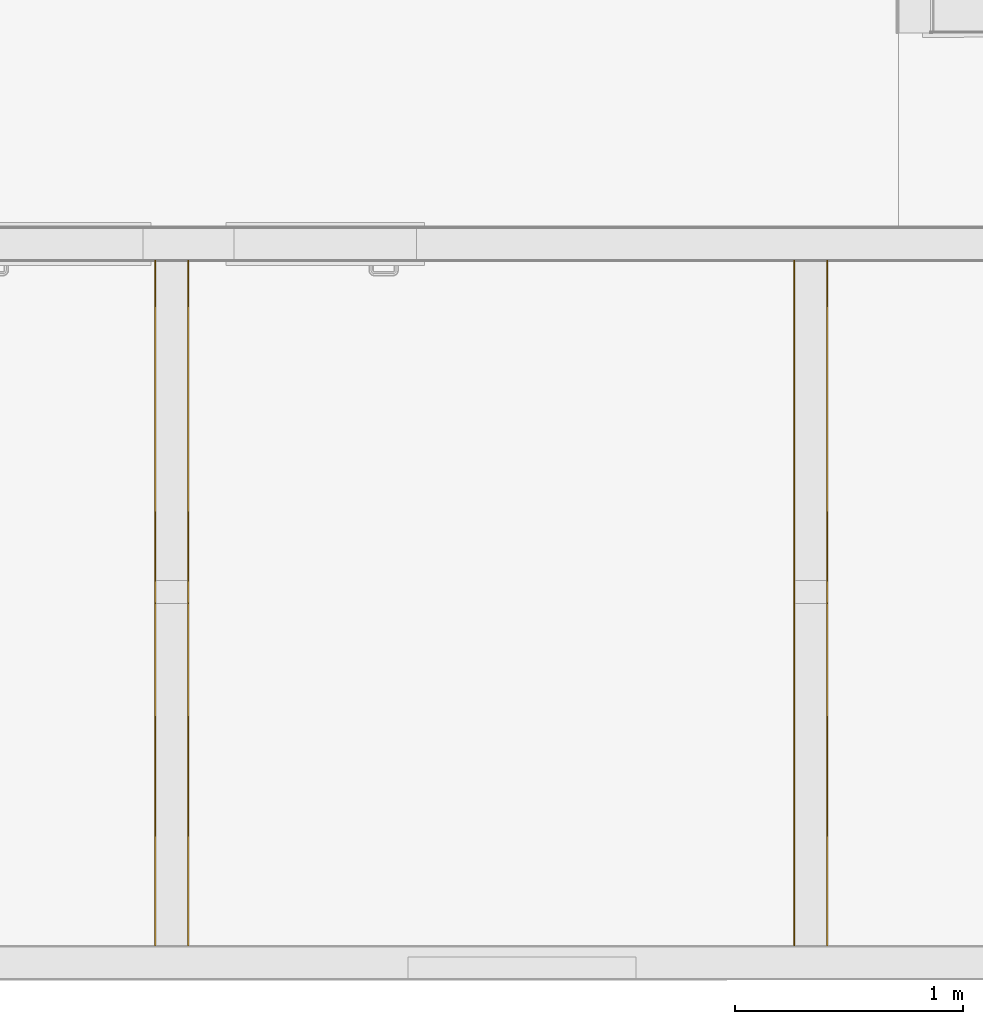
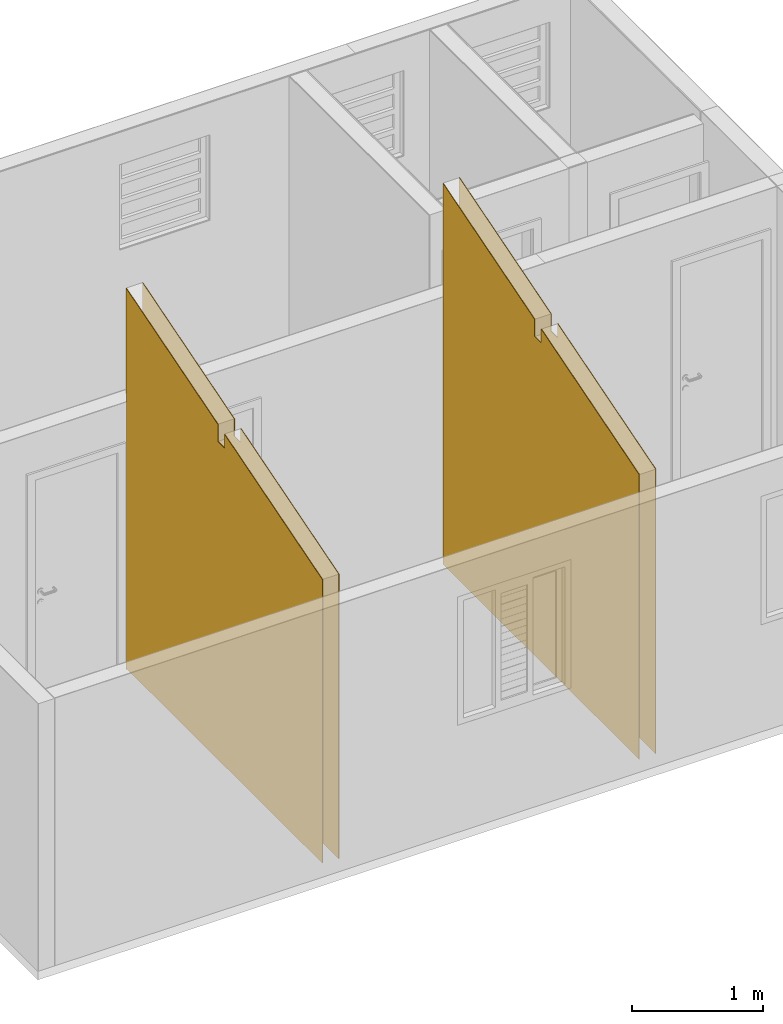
# One storey, part 11 of 11: 4 coverings, 2 elements without a shape of their own.
"""IFC2X3 building model written with IfcOpenShell, lengths in millimetres."""

import ifcopenshell
import ifcopenshell.guid

model = None  # the IFC model being written
_history = None  # IfcOwnerHistory: only IFC2X3 demands one
_inside = {}  # id of a spatial element -> (the spatial element, [elements in it])
_under = {}  # id of a project, library or spatial element -> (it, [spatial elements below it])
_declared = {}  # id of a project -> (the project, [libraries it declares])
_typed = {}  # id of a type object -> (the type object, [elements of that type])
_made_of = {}  # id of a material, layer set ... -> (it, [elements and type objects made of it])


def new_model(schema):
    """Start an empty IFC model of exactly this schema.

    Asked for "IFC4X3", IfcOpenShell would pick the latest addendum, in which some entities
    have other attributes; the version numbers below select the first issue.
    IFC2X3 requires an IfcOwnerHistory on every rooted entity: one is made here for all.
    """
    global model, _history
    if schema == "IFC4X3":
        model = ifcopenshell.file(schema_version=(4, 3, 0, 0))
    else:
        model = ifcopenshell.file(schema=schema)
    _inside.clear()
    _under.clear()
    _declared.clear()
    _typed.clear()
    _made_of.clear()
    _history = None
    if model.schema == "IFC2X3":
        org = make("IfcOrganization", Name="unknown")
        user = make(
            "IfcPersonAndOrganization",
            ThePerson=make("IfcPerson", FamilyName="unknown"),
            TheOrganization=org,
        )
        app = make(
            "IfcApplication",
            ApplicationDeveloper=org,
            Version="unknown",
            ApplicationFullName="unknown",
            ApplicationIdentifier="unknown",
        )
        _history = make(
            "IfcOwnerHistory",
            OwningUser=user,
            OwningApplication=app,
            ChangeAction="ADDED",
            CreationDate=0,
        )
    return model


def make(cls, **values):
    """One entity of the class cls with the attributes given. An attribute that is None is left unset."""
    return model.create_entity(
        cls, **{name: value for name, value in values.items() if value is not None}
    )


def entity(cls, *values):
    """Any entity or typed value of the class cls, its attributes in the order of the schema. None: left unset."""
    e = model.create_entity(cls)
    for i, value in enumerate(values):
        if value is not None:
            e[i] = value
    return e


def rooted(cls, **values):
    """An entity with a GlobalId (a new one), such as an element, a storey or a relation."""
    return make(cls, GlobalId=ifcopenshell.guid.new(), OwnerHistory=_history, **values)


def si_unit(unit_type, name, prefix=None):
    """IfcSIUnit, for example si_unit("LENGTHUNIT", "METRE", prefix="MILLI")."""
    return make("IfcSIUnit", UnitType=unit_type, Prefix=prefix, Name=name)


def converted_unit(unit_type, name, factor, base, dimensions=None, offset=None):
    """IfcConversionBasedUnit, such as the inch: factor (a typed value) times the base unit."""
    return make(
        "IfcConversionBasedUnit"
        if offset is None
        else "IfcConversionBasedUnitWithOffset",
        ConversionOffset=offset,
        Dimensions=None
        if dimensions is None
        else entity("IfcDimensionalExponents", *dimensions),
        UnitType=unit_type,
        Name=name,
        ConversionFactor=make(
            "IfcMeasureWithUnit", ValueComponent=factor, UnitComponent=base
        ),
    )


def derived_unit(unit_type, elements):
    """IfcDerivedUnit: a product of units, each with its exponent."""
    return make(
        "IfcDerivedUnit",
        Elements=[
            make("IfcDerivedUnitElement", Unit=unit, Exponent=power)
            for unit, power in elements
        ],
        UnitType=unit_type,
    )


def money_unit(currency):
    """IfcMonetaryUnit."""
    return make("IfcMonetaryUnit", Currency=currency)


def assignment(units):
    """IfcUnitAssignment: the units of a project."""
    return None if units is None else make("IfcUnitAssignment", Units=units)


def point(xyz):
    """IfcCartesianPoint."""
    return None if xyz is None else make("IfcCartesianPoint", Coordinates=xyz)


def direction(xyz):
    """IfcDirection."""
    return None if xyz is None else make("IfcDirection", DirectionRatios=xyz)


def frame(location, z_axis=None, x_axis=None):
    """IfcAxis2Placement3D, a coordinate frame: its origin and axes. An axis left out is left unset."""
    return make(
        "IfcAxis2Placement3D",
        Location=point(location),
        Axis=direction(z_axis),
        RefDirection=direction(x_axis),
    )


def origin_with_axes():
    """The frame at (0, 0, 0) with the z axis (0, 0, 1) and the x axis (1, 0, 0) written out."""
    return frame((0.0, 0.0, 0.0), z_axis=(0.0, 0.0, 1.0), x_axis=(1.0, 0.0, 0.0))


def place(relative_to, where):
    """IfcLocalPlacement: puts the frame where relative to a parent placement (None: the world)."""
    return make(
        "IfcLocalPlacement", PlacementRelTo=relative_to, RelativePlacement=where
    )


def context(
    kind, dimensions, precision=None, world=None, true_north=None, identifier=None
):
    """IfcGeometricRepresentationContext, for example the 3D "Model" context."""
    return make(
        "IfcGeometricRepresentationContext",
        ContextIdentifier=identifier,
        ContextType=kind,
        CoordinateSpaceDimension=dimensions,
        Precision=precision,
        WorldCoordinateSystem=world,
        TrueNorth=true_north,
    )


def subcontext(parent, identifier, kind, view, scale=None):
    """IfcGeometricRepresentationSubContext, for example "Body" below "Model"."""
    return make(
        "IfcGeometricRepresentationSubContext",
        ContextIdentifier=identifier,
        ContextType=kind,
        ParentContext=parent,
        TargetScale=scale,
        TargetView=view,
    )


def project(units=None, contexts=None):
    """IfcProject with its units and contexts."""
    return rooted(
        "IfcProject",
        Name="project",
        RepresentationContexts=contexts,
        UnitsInContext=assignment(units),
    )


def spatial(cls, under=None, at=None, **own):
    """A site, building, storey or space (cls), placed at a placement, below another one or the project."""
    s = rooted(cls, ObjectPlacement=at, **own)
    if under is not None:
        _under.setdefault(under.id(), (under, []))[1].append(s)
    return s


def polyline(points):
    """IfcPolyline through the points."""
    return make("IfcPolyline", Points=[point(p) for p in points])


def outline(outer, holes=None, kind="AREA"):
    """IfcArbitraryClosedProfileDef: a profile drawn as a closed curve; with holes, ...WithVoids."""
    if holes is None:
        return make("IfcArbitraryClosedProfileDef", ProfileType=kind, OuterCurve=outer)
    return make(
        "IfcArbitraryProfileDefWithVoids",
        ProfileType=kind,
        OuterCurve=outer,
        InnerCurves=holes,
    )


def extrude(swept, where, along, depth):
    """IfcExtrudedAreaSolid: the profile swept, set in the frame where, extruded along a direction by depth."""
    return make(
        "IfcExtrudedAreaSolid",
        SweptArea=swept,
        Position=where,
        ExtrudedDirection=direction(along),
        Depth=depth,
    )


def boolean(op, a, b):
    """IfcBooleanResult of two solids."""
    return make("IfcBooleanResult", Operator=op, FirstOperand=a, SecondOperand=b)


def faces_of(points, faces, orient=None, outer=None):
    """IfcFace entities. A face is a list of loops; a loop is a list of indices into points, from 0.

    orient and outer hold one flag for each loop. By default every Orientation is true, the
    first loop of a face is its IfcFaceOuterBound and the others are IfcFaceBound.
    """
    made = []
    for i, loops in enumerate(faces):
        bounds = []
        for j, loop in enumerate(loops):
            is_outer = j == 0 if outer is None else outer[i][j]
            bounds.append(
                make(
                    "IfcFaceOuterBound" if is_outer else "IfcFaceBound",
                    Bound=make("IfcPolyLoop", Polygon=[points[k] for k in loop]),
                    Orientation=True if orient is None else orient[i][j],
                )
            )
        made.append(make("IfcFace", Bounds=bounds))
    return made


def faceted_brep(points, faces, orient=None, outer=None, voids=None):
    """IfcFacetedBrep: a solid bounded by flat faces; with voids (closed shells), ...WithVoids."""
    shared = [point(p) for p in points]
    hull = make("IfcClosedShell", CfsFaces=faces_of(shared, faces, orient, outer))
    if voids is None:
        return make("IfcFacetedBrep", Outer=hull)
    return make(
        "IfcFacetedBrepWithVoids",
        Outer=hull,
        Voids=[
            make(cls, CfsFaces=faces_of(shared, fs, o, b)) for cls, fs, o, b in voids
        ],
    )


def shape(context_of_items, identifier, shape_type, items):
    """IfcShapeRepresentation: the items that make up one representation, for example the "Body"."""
    return make(
        "IfcShapeRepresentation",
        ContextOfItems=context_of_items,
        RepresentationIdentifier=identifier,
        RepresentationType=shape_type,
        Items=items,
    )


def material(Name=None, Category=None):
    """IfcMaterial."""
    return make("IfcMaterial", Name=Name, Category=Category)


def made_of(thing, what):
    """Note that an element or type object is made of a material, layer set ...; save() writes the relation."""
    if what is not None:
        _made_of.setdefault(what.id(), (what, []))[1].append(thing)
    return thing


def type_object(cls, material=None, **own):
    """A type object (cls), such as IfcWallType, which elements share."""
    return made_of(rooted(cls, **own), material)


def element(
    cls,
    number,
    at=None,
    inside=None,
    cuts=None,
    type_object=None,
    material=None,
    context=None,
    identifier="Body",
    shape_type=None,
    held_by="IfcProductDefinitionShape",
    body=None,
    shapes=None,
    **own,
):
    """One element of the class cls, such as IfcWall. Its Tag is "e" and its number.

    at: its placement. inside: the storey or other place that contains it. cuts: it is an
    opening in that element (IfcRelVoidsElement). A single representation is given by context,
    identifier, shape_type and body (its items); several are given by shapes. held_by: the class
    of the entity that holds the representations. save() writes the other relations.
    """
    e = rooted(cls, Tag="e%d" % number, ObjectPlacement=at, **own)
    if body is not None:
        shapes = [shape(context, identifier, shape_type, body)]
    if shapes is not None:
        e.Representation = make(held_by, Representations=shapes)
    if inside is not None:
        _inside.setdefault(inside.id(), (inside, []))[1].append(e)
    if cuts is not None:
        rooted(
            "IfcRelVoidsElement", RelatingBuildingElement=cuts, RelatedOpeningElement=e
        )
    if type_object is not None:
        _typed.setdefault(type_object.id(), (type_object, []))[1].append(e)
    return made_of(e, material)


def aggregate(whole, parts):
    """IfcRelAggregates: a whole, such as a stair, and the parts it consists of."""
    return rooted("IfcRelAggregates", RelatingObject=whole, RelatedObjects=parts)


def save(model, path):
    """Write the relations noted so far, then the file.

    IfcRelAggregates (storeys below a building ...), IfcRelContainedInSpatialStructure (elements
    in a storey), IfcRelDefinesByType, IfcRelAssociatesMaterial and IfcRelDeclares: one each for
    every whole, place, type object, material and project.
    """
    for whole, parts in _under.values():
        aggregate(whole, parts)
    for where, things in _inside.values():
        rooted(
            "IfcRelContainedInSpatialStructure",
            RelatedElements=things,
            RelatingStructure=where,
        )
    for kind, things in _typed.values():
        rooted("IfcRelDefinesByType", RelatedObjects=things, RelatingType=kind)
    for what, things in _made_of.values():
        rooted("IfcRelAssociatesMaterial", RelatedObjects=things, RelatingMaterial=what)
    for by, libraries in _declared.values():
        rooted("IfcRelDeclares", RelatingContext=by, RelatedDefinitions=libraries)
    model.write(path)


model = new_model("IFC2X3")

# Units and contexts
model_context = context("Model", 3, precision=0.01, world=origin_with_axes(), true_north=direction((0.0, 1.0)))
body_context = subcontext(model_context, "Body", "Model", "MODEL_VIEW")
ifc_project = project(units=[si_unit("LENGTHUNIT", "METRE", prefix="MILLI"), si_unit("AREAUNIT", "SQUARE_METRE"), si_unit("VOLUMEUNIT", "CUBIC_METRE"), converted_unit("PLANEANGLEUNIT", "DEGREE", entity("IfcPlaneAngleMeasure", 0.0174532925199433), si_unit("PLANEANGLEUNIT", "RADIAN"), dimensions=[0, 0, 0, 0, 0, 0, 0]), money_unit("USD"), converted_unit("TIMEUNIT", "Year", entity("IfcTimeMeasure", 31557600.0), si_unit("TIMEUNIT", "SECOND"), dimensions=[0, 0, 1, 0, 0, 0, 0]), si_unit("MASSUNIT", "GRAM", prefix="KILO"), si_unit("THERMODYNAMICTEMPERATUREUNIT", "DEGREE_CELSIUS"), si_unit("LUMINOUSINTENSITYUNIT", "LUMEN"), si_unit("ENERGYUNIT", "JOULE", prefix="MEGA"), derived_unit("THERMALCONDUCTANCEUNIT", [(si_unit("POWERUNIT", "WATT"), 1), (si_unit("LENGTHUNIT", "METRE"), -1), (si_unit("THERMODYNAMICTEMPERATUREUNIT", "KELVIN"), -1)]), derived_unit("SPECIFICHEATCAPACITYUNIT", [(si_unit("ENERGYUNIT", "JOULE"), 1), (si_unit("MASSUNIT", "GRAM", prefix="KILO"), -1), (si_unit("THERMODYNAMICTEMPERATUREUNIT", "KELVIN"), -1)]), derived_unit("MASSDENSITYUNIT", [(si_unit("MASSUNIT", "GRAM", prefix="KILO"), 1), (si_unit("VOLUMEUNIT", "CUBIC_METRE"), -1)])], contexts=[model_context])

# Site, building, storey
site_placement = place(None, origin_with_axes())
site = spatial("IfcSite", under=ifc_project, at=site_placement, Name="Local", CompositionType="ELEMENT")
building_placement = place(site_placement, origin_with_axes())
building = spatial("IfcBuilding", under=site, at=building_placement, Name="Construção", CompositionType="ELEMENT")
storey_placement = place(building_placement, origin_with_axes())
storey = spatial("IfcBuildingStorey", under=building, at=storey_placement, Name="Pavimento Térreo", CompositionType="ELEMENT", Elevation=0.0)

# Wall, coverings
wall_type = type_object("IfcWallType", Name="Alvenaria 140, Rebocada 2 Faces 150", PredefinedType="NOTDEFINED")
wall_1_placement = place(storey_placement, frame((2750.0, 150.0000000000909, 0.0), z_axis=(0.0, 0.0, 1.0), x_axis=(0.0, 1.0, 0.0)))
wall_1 = element("IfcWall", 1, at=wall_1_placement, inside=storey, type_object=wall_type, Name="Parede-06")
ifc_material = material(Name="Reboco DEF")
covering_1_placement = place(wall_1_placement, origin_with_axes())
covering_1 = element("IfcCovering", 2, at=covering_1_placement, material=ifc_material, Name="Reboco DEF", PredefinedType="CLADDING", context=body_context, shape_type="CSG", body=[
    boolean("DIFFERENCE", boolean("DIFFERENCE", boolean("DIFFERENCE", boolean("DIFFERENCE", boolean("DIFFERENCE", boolean("DIFFERENCE", boolean("DIFFERENCE", extrude(outline(polyline([(0.0, 0.0), (3005.000000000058, 0.0), (3005.000000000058, 4.999999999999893), (0.0, 4.999999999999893), (0.0, 0.0)])), origin_with_axes(), (0.0, 0.0, 1.0), 5897.788795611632), faceted_brep([(3005.000000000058, 0.0, 2500.0), (3005.000000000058, 4.999999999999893, 2500.0), (3005.000000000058, 4.999999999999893, 2580.0), (3005.000000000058, 0.0, 2580.0), (2999.999999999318, 0.0, 2500.0), (2999.999999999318, 4.999999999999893, 2500.0), (2999.999999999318, 4.999999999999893, 2580.0), (2999.999999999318, 0.0, 2580.0)], [[[0, 1, 2, 3]], [[1, 0, 4, 5]], [[6, 2, 1, 5]], [[7, 3, 2, 6]], [[4, 0, 3, 7]], [[4, 7, 6, 5]]])), faceted_brep([(1600.000000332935, 0.0, 2980.451740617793), (1600.000000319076, 0.0, 3140.451740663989), (3005.000000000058, 0.0, 3561.951740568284), (3005.000000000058, 0.0, 5897.788795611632), (0.0, 0.0, 5897.788795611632), (0.0, 0.0, 2660.451740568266), (1500.000000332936, 0.0, 3110.451740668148), (1500.000000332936, 0.0, 2980.451740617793), (1600.000000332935, 4.999999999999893, 2980.451740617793), (1600.000000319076, 4.999999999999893, 3140.451740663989), (3005.000000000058, 4.999999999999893, 3561.951740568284), (3005.000000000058, 4.999999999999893, 5897.788795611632), (0.0, 4.999999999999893, 5897.788795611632), (0.0, 4.999999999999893, 2660.451740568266), (1500.000000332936, 4.999999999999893, 3110.451740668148), (1500.000000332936, 4.999999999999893, 2980.451740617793)], [[[0, 1, 2, 3, 4, 5, 6, 7]], [[1, 0, 8, 9]], [[10, 2, 1, 9]], [[2, 10, 11, 3]], [[12, 4, 3, 11]], [[13, 5, 4, 12]], [[6, 5, 13, 14]], [[7, 6, 14, 15]], [[0, 7, 15, 8]], [[14, 13, 12, 11, 10, 9, 8, 15]]])), faceted_brep([(3005.000000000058, 4.999999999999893, 2500.0), (3005.000000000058, 145.0000000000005, 2500.0), (3005.000000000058, 145.0000000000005, 2580.0), (3005.000000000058, 4.999999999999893, 2580.0), (2999.999999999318, 4.999999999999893, 2500.0), (2999.999999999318, 145.0000000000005, 2500.0), (2999.999999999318, 145.0000000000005, 2580.0), (2999.999999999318, 4.999999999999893, 2580.0)], [[[0, 1, 2, 3]], [[1, 0, 4, 5]], [[6, 2, 1, 5]], [[3, 2, 6, 7]], [[4, 0, 3, 7]], [[6, 5, 4, 7]]])), faceted_brep([(1600.000000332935, 4.999999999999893, 2980.451740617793), (1600.000000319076, 4.999999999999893, 3140.451740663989), (3005.000000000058, 4.999999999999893, 3561.951740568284), (3005.000000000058, 4.999999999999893, 5897.788795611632), (0.0, 4.999999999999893, 5897.788795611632), (0.0, 4.999999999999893, 2660.451740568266), (1500.000000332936, 4.999999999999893, 3110.451740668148), (1500.000000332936, 4.999999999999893, 2980.451740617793), (1600.000000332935, 145.0000000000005, 2980.451740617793), (1600.000000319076, 145.0000000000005, 3140.451740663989), (3005.000000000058, 145.0000000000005, 3561.951740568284), (3005.000000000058, 145.0, 5897.788795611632), (0.0, 145.0, 5897.788795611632), (0.0, 145.0000000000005, 2660.451740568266), (1500.000000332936, 145.0000000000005, 3110.451740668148), (1500.000000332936, 145.0000000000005, 2980.451740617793)], [[[0, 1, 2, 3, 4, 5, 6, 7]], [[1, 0, 8, 9]], [[10, 2, 1, 9]], [[2, 10, 11, 3]], [[12, 4, 3, 11]], [[13, 5, 4, 12]], [[6, 5, 13, 14]], [[14, 15, 7, 6]], [[15, 8, 0, 7]], [[14, 13, 12, 11, 10, 9, 8, 15]]])), faceted_brep([(3000.000011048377, 145.0000000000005, 9.999999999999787), (0.0, 145.0, 9.999999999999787), (0.0, 145.0, 0.0), (3000.000011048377, 145.0, 0.0), (3000.000011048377, 149.9999999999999, 9.999999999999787), (0.0, 149.9999999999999, 9.999999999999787), (0.0, 149.9999999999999, 0.0), (3000.000011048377, 149.9999999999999, 0.0)], [[[0, 1, 2, 3]], [[1, 0, 4, 5]], [[1, 5, 6, 2]], [[7, 3, 2, 6]], [[0, 3, 7, 4]], [[4, 7, 6, 5]]])), faceted_brep([(3005.000000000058, 145.0000000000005, 2500.0), (3005.000000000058, 150.0000000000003, 2500.0), (3005.000000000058, 150.0000000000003, 2580.0), (3005.000000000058, 145.0000000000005, 2580.0), (2999.999999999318, 145.0000000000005, 2500.0), (2999.999999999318, 150.0000000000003, 2500.0), (2999.999999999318, 150.0000000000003, 2580.0), (2999.999999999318, 145.0000000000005, 2580.0)], [[[0, 1, 2, 3]], [[1, 0, 4, 5]], [[6, 2, 1, 5]], [[3, 2, 6, 7]], [[4, 0, 3, 7]], [[6, 5, 4, 7]]])), faceted_brep([(1600.000000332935, 145.0000000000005, 2980.451740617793), (1600.000000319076, 145.0000000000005, 3140.451740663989), (3005.000000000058, 145.0000000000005, 3561.951740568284), (3005.000000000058, 145.0, 5897.788795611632), (0.0, 145.0, 5897.788795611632), (0.0, 145.0000000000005, 2660.451740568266), (1500.000000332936, 145.0000000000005, 3110.451740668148), (1500.000000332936, 145.0000000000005, 2980.451740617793), (1600.000000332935, 150.0000000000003, 2980.451740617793), (1600.000000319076, 150.0000000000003, 3140.451740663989), (3005.000000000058, 150.0000000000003, 3561.951740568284), (3005.000000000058, 149.9999999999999, 5897.788795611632), (0.0, 149.9999999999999, 5897.788795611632), (0.0, 150.0000000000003, 2660.451740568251), (1500.000000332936, 150.0000000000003, 3110.451740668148), (1500.000000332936, 150.0000000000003, 2980.451740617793)], [[[0, 1, 2, 3, 4, 5, 6, 7]], [[8, 9, 1, 0]], [[10, 2, 1, 9]], [[2, 10, 11, 3]], [[12, 4, 3, 11]], [[13, 5, 4, 12]], [[6, 5, 13, 14]], [[14, 15, 7, 6]], [[15, 8, 0, 7]], [[14, 13, 12, 11, 10, 9, 8, 15]]])),
])
covering_2_placement = place(wall_1_placement, origin_with_axes())
covering_2 = element("IfcCovering", 3, at=covering_2_placement, material=ifc_material, Name="Reboco DEF", PredefinedType="CLADDING", context=body_context, shape_type="CSG", body=[
    boolean("DIFFERENCE", boolean("DIFFERENCE", boolean("DIFFERENCE", boolean("DIFFERENCE", boolean("DIFFERENCE", boolean("DIFFERENCE", boolean("DIFFERENCE", extrude(outline(polyline([(0.0, 145.0), (3005.000000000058, 145.0), (3005.000000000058, 149.9999999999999), (0.0, 149.9999999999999), (0.0, 145.0)])), origin_with_axes(), (0.0, 0.0, 1.0), 5897.788795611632), faceted_brep([(3005.000000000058, 0.0, 2500.0), (3005.000000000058, 4.999999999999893, 2500.0), (3005.000000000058, 4.999999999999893, 2580.0), (3005.000000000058, 0.0, 2580.0), (2999.999999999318, 0.0, 2500.0), (2999.999999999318, 4.999999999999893, 2500.0), (2999.999999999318, 4.999999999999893, 2580.0), (2999.999999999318, 0.0, 2580.0)], [[[0, 1, 2, 3]], [[1, 0, 4, 5]], [[6, 2, 1, 5]], [[7, 3, 2, 6]], [[4, 0, 3, 7]], [[4, 7, 6, 5]]])), faceted_brep([(1600.000000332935, 0.0, 2980.451740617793), (1600.000000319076, 0.0, 3140.451740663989), (3005.000000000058, 0.0, 3561.951740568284), (3005.000000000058, 0.0, 5897.788795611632), (0.0, 0.0, 5897.788795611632), (0.0, 0.0, 2660.451740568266), (1500.000000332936, 0.0, 3110.451740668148), (1500.000000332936, 0.0, 2980.451740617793), (1600.000000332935, 4.999999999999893, 2980.451740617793), (1600.000000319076, 4.999999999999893, 3140.451740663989), (3005.000000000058, 4.999999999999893, 3561.951740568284), (3005.000000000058, 4.999999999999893, 5897.788795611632), (0.0, 4.999999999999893, 5897.788795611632), (0.0, 4.999999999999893, 2660.451740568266), (1500.000000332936, 4.999999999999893, 3110.451740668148), (1500.000000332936, 4.999999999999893, 2980.451740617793)], [[[0, 1, 2, 3, 4, 5, 6, 7]], [[1, 0, 8, 9]], [[10, 2, 1, 9]], [[2, 10, 11, 3]], [[12, 4, 3, 11]], [[13, 5, 4, 12]], [[6, 5, 13, 14]], [[7, 6, 14, 15]], [[0, 7, 15, 8]], [[14, 13, 12, 11, 10, 9, 8, 15]]])), faceted_brep([(3005.000000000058, 4.999999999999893, 2500.0), (3005.000000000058, 145.0000000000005, 2500.0), (3005.000000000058, 145.0000000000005, 2580.0), (3005.000000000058, 4.999999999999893, 2580.0), (2999.999999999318, 4.999999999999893, 2500.0), (2999.999999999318, 145.0000000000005, 2500.0), (2999.999999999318, 145.0000000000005, 2580.0), (2999.999999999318, 4.999999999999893, 2580.0)], [[[0, 1, 2, 3]], [[1, 0, 4, 5]], [[6, 2, 1, 5]], [[3, 2, 6, 7]], [[4, 0, 3, 7]], [[6, 5, 4, 7]]])), faceted_brep([(1600.000000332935, 4.999999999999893, 2980.451740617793), (1600.000000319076, 4.999999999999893, 3140.451740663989), (3005.000000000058, 4.999999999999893, 3561.951740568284), (3005.000000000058, 4.999999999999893, 5897.788795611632), (0.0, 4.999999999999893, 5897.788795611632), (0.0, 4.999999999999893, 2660.451740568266), (1500.000000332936, 4.999999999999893, 3110.451740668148), (1500.000000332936, 4.999999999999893, 2980.451740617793), (1600.000000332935, 145.0000000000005, 2980.451740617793), (1600.000000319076, 145.0000000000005, 3140.451740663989), (3005.000000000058, 145.0000000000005, 3561.951740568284), (3005.000000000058, 145.0, 5897.788795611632), (0.0, 145.0, 5897.788795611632), (0.0, 145.0000000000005, 2660.451740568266), (1500.000000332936, 145.0000000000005, 3110.451740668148), (1500.000000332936, 145.0000000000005, 2980.451740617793)], [[[0, 1, 2, 3, 4, 5, 6, 7]], [[1, 0, 8, 9]], [[10, 2, 1, 9]], [[2, 10, 11, 3]], [[12, 4, 3, 11]], [[13, 5, 4, 12]], [[6, 5, 13, 14]], [[14, 15, 7, 6]], [[15, 8, 0, 7]], [[14, 13, 12, 11, 10, 9, 8, 15]]])), faceted_brep([(3000.000011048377, 145.0000000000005, 9.999999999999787), (0.0, 145.0, 9.999999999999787), (0.0, 145.0, 0.0), (3000.000011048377, 145.0, 0.0), (3000.000011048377, 149.9999999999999, 9.999999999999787), (0.0, 149.9999999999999, 9.999999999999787), (0.0, 149.9999999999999, 0.0), (3000.000011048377, 149.9999999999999, 0.0)], [[[0, 1, 2, 3]], [[1, 0, 4, 5]], [[1, 5, 6, 2]], [[7, 3, 2, 6]], [[0, 3, 7, 4]], [[4, 7, 6, 5]]])), faceted_brep([(3005.000000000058, 145.0000000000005, 2500.0), (3005.000000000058, 150.0000000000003, 2500.0), (3005.000000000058, 150.0000000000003, 2580.0), (3005.000000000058, 145.0000000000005, 2580.0), (2999.999999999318, 145.0000000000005, 2500.0), (2999.999999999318, 150.0000000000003, 2500.0), (2999.999999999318, 150.0000000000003, 2580.0), (2999.999999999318, 145.0000000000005, 2580.0)], [[[0, 1, 2, 3]], [[1, 0, 4, 5]], [[6, 2, 1, 5]], [[3, 2, 6, 7]], [[4, 0, 3, 7]], [[6, 5, 4, 7]]])), faceted_brep([(1600.000000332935, 145.0000000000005, 2980.451740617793), (1600.000000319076, 145.0000000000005, 3140.451740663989), (3005.000000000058, 145.0000000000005, 3561.951740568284), (3005.000000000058, 145.0, 5897.788795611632), (0.0, 145.0, 5897.788795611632), (0.0, 145.0000000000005, 2660.451740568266), (1500.000000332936, 145.0000000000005, 3110.451740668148), (1500.000000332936, 145.0000000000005, 2980.451740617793), (1600.000000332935, 150.0000000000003, 2980.451740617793), (1600.000000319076, 150.0000000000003, 3140.451740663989), (3005.000000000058, 150.0000000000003, 3561.951740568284), (3005.000000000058, 149.9999999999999, 5897.788795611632), (0.0, 149.9999999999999, 5897.788795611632), (0.0, 150.0000000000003, 2660.451740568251), (1500.000000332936, 150.0000000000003, 3110.451740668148), (1500.000000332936, 150.0000000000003, 2980.451740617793)], [[[0, 1, 2, 3, 4, 5, 6, 7]], [[8, 9, 1, 0]], [[10, 2, 1, 9]], [[2, 10, 11, 3]], [[12, 4, 3, 11]], [[13, 5, 4, 12]], [[6, 5, 13, 14]], [[14, 15, 7, 6]], [[15, 8, 0, 7]], [[14, 13, 12, 11, 10, 9, 8, 15]]])),
])
aggregate(wall_1, [covering_1, covering_2])

wall_2_placement = place(storey_placement, frame((5550.000000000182, 149.9999999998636, 0.0), z_axis=(0.0, 0.0, 1.0), x_axis=(0.0, 1.0, 0.0)))
wall_2 = element("IfcWall", 4, at=wall_2_placement, inside=storey, type_object=wall_type, Name="Parede-20")
covering_3_placement = place(wall_2_placement, origin_with_axes())
covering_3 = element("IfcCovering", 5, at=covering_3_placement, material=ifc_material, Name="Reboco DEF", PredefinedType="CLADDING", context=body_context, shape_type="CSG", body=[
    boolean("DIFFERENCE", boolean("DIFFERENCE", boolean("DIFFERENCE", boolean("DIFFERENCE", boolean("DIFFERENCE", boolean("DIFFERENCE", extrude(outline(polyline([(0.0, 0.0), (3005.000000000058, 0.0), (3005.000000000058, 4.999999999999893), (0.0, 4.999999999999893), (0.0, 0.0)])), origin_with_axes(), (0.0, 0.0, 1.0), 5897.788795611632), faceted_brep([(3005.000000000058, 0.0, 2500.0), (3005.000000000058, 5.000000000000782, 2500.0), (3005.000000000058, 5.000000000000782, 2580.0), (3005.000000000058, 0.0, 2580.0), (2999.999999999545, 0.0, 2500.0), (2999.999999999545, 5.000000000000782, 2500.0), (2999.999999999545, 5.000000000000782, 2580.0), (2999.999999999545, 0.0, 2580.0)], [[[0, 1, 2, 3]], [[1, 0, 4, 5]], [[6, 2, 1, 5]], [[7, 3, 2, 6]], [[4, 0, 3, 7]], [[4, 7, 6, 5]]])), faceted_brep([(1600.000000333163, 0.0, 2980.451740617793), (1600.000000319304, 0.0, 3140.45174066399), (3005.000000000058, 0.0, 3561.951740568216), (3005.000000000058, 0.0, 5897.788795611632), (0.0, 0.0, 5897.788795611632), (0.0, 0.0, 2660.451740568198), (1500.000000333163, 0.0, 3110.451740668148), (1500.000000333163, 0.0, 2980.451740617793), (1600.000000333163, 5.000000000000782, 2980.451740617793), (1600.000000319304, 5.000000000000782, 3140.45174066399), (3005.000000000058, 5.000000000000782, 3561.951740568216), (3005.000000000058, 4.999999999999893, 5897.788795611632), (0.0, 4.999999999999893, 5897.788795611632), (0.0, 5.000000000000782, 2660.451740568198), (1500.000000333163, 5.000000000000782, 3110.451740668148), (1500.000000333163, 5.000000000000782, 2980.451740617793)], [[[0, 1, 2, 3, 4, 5, 6, 7]], [[1, 0, 8, 9]], [[10, 2, 1, 9]], [[2, 10, 11, 3]], [[12, 4, 3, 11]], [[13, 5, 4, 12]], [[6, 5, 13, 14]], [[7, 6, 14, 15]], [[0, 7, 15, 8]], [[14, 13, 12, 11, 10, 9, 8, 15]]])), faceted_brep([(3005.000000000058, 5.000000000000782, 2500.0), (3005.000000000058, 144.9999999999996, 2500.0), (3005.000000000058, 144.9999999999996, 2580.0), (3005.000000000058, 5.000000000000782, 2580.0), (2999.999999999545, 5.000000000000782, 2500.0), (2999.999999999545, 145.0000000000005, 2500.0), (2999.999999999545, 145.0000000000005, 2580.0), (2999.999999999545, 5.000000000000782, 2580.0)], [[[0, 1, 2, 3]], [[1, 0, 4, 5]], [[6, 2, 1, 5]], [[3, 2, 6, 7]], [[4, 0, 3, 7]], [[6, 5, 4, 7]]])), faceted_brep([(1600.000000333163, 5.000000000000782, 2980.451740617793), (1600.000000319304, 5.000000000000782, 3140.45174066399), (3005.000000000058, 5.000000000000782, 3561.951740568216), (3005.000000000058, 4.999999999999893, 5897.788795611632), (0.0, 4.999999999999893, 5897.788795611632), (0.0, 5.000000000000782, 2660.451740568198), (1500.000000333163, 5.000000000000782, 3110.451740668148), (1500.000000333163, 5.000000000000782, 2980.451740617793), (1600.000000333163, 145.0000000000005, 2980.451740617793), (1600.000000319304, 145.0000000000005, 3140.45174066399), (3005.000000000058, 144.9999999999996, 3561.951740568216), (3005.000000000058, 145.0000000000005, 5897.788795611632), (0.0, 145.0000000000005, 5897.788795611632), (0.0, 144.9999999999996, 2660.451740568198), (1500.000000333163, 145.0000000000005, 3110.451740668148), (1500.000000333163, 145.0000000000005, 2980.451740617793)], [[[0, 1, 2, 3, 4, 5, 6, 7]], [[1, 0, 8, 9]], [[10, 2, 1, 9]], [[2, 10, 11, 3]], [[12, 4, 3, 11]], [[13, 5, 4, 12]], [[6, 5, 13, 14]], [[14, 15, 7, 6]], [[15, 8, 0, 7]], [[14, 13, 12, 11, 10, 9, 8, 15]]])), faceted_brep([(3005.000000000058, 144.9999999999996, 2500.0), (3005.000000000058, 150.0000000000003, 2500.0), (3005.000000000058, 150.0000000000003, 2580.0), (3005.000000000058, 144.9999999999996, 2580.0), (2999.999999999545, 145.0000000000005, 2500.0), (2999.999999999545, 150.0000000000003, 2500.0), (2999.999999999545, 150.0000000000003, 2580.0), (2999.999999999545, 145.0000000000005, 2580.0)], [[[0, 1, 2, 3]], [[1, 0, 4, 5]], [[6, 2, 1, 5]], [[3, 2, 6, 7]], [[4, 0, 3, 7]], [[6, 5, 4, 7]]])), faceted_brep([(1600.000000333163, 145.0000000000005, 2980.451740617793), (1600.000000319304, 145.0000000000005, 3140.45174066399), (3005.000000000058, 144.9999999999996, 3561.951740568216), (3005.000000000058, 145.0000000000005, 5897.788795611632), (0.0, 145.0000000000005, 5897.788795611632), (0.0, 144.9999999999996, 2660.451740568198), (1500.000000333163, 145.0000000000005, 3110.451740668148), (1500.000000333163, 145.0000000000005, 2980.451740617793), (1600.000000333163, 150.0000000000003, 2980.451740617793), (1600.000000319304, 150.0000000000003, 3140.45174066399), (3005.000000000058, 150.0000000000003, 3561.951740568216), (3005.000000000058, 150.0000000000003, 5897.788795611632), (0.0, 150.0000000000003, 5897.788795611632), (0.0, 150.0000000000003, 2660.451740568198), (1500.000000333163, 150.0000000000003, 3110.451740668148), (1500.000000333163, 150.0000000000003, 2980.451740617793)], [[[0, 1, 2, 3, 4, 5, 6, 7]], [[8, 9, 1, 0]], [[10, 2, 1, 9]], [[2, 10, 11, 3]], [[12, 4, 3, 11]], [[13, 5, 4, 12]], [[6, 5, 13, 14]], [[14, 15, 7, 6]], [[15, 8, 0, 7]], [[14, 13, 12, 11, 10, 9, 8, 15]]])),
])
covering_4_placement = place(wall_2_placement, origin_with_axes())
covering_4 = element("IfcCovering", 6, at=covering_4_placement, material=ifc_material, Name="Reboco DEF", PredefinedType="CLADDING", context=body_context, shape_type="CSG", body=[
    boolean("DIFFERENCE", boolean("DIFFERENCE", boolean("DIFFERENCE", boolean("DIFFERENCE", boolean("DIFFERENCE", boolean("DIFFERENCE", extrude(outline(polyline([(0.0, 145.0000000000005), (3005.000000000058, 145.0000000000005), (3005.000000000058, 150.0000000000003), (0.0, 150.0000000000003), (0.0, 145.0000000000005)])), origin_with_axes(), (0.0, 0.0, 1.0), 5897.788795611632), faceted_brep([(3005.000000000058, 0.0, 2500.0), (3005.000000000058, 5.000000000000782, 2500.0), (3005.000000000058, 5.000000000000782, 2580.0), (3005.000000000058, 0.0, 2580.0), (2999.999999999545, 0.0, 2500.0), (2999.999999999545, 5.000000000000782, 2500.0), (2999.999999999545, 5.000000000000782, 2580.0), (2999.999999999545, 0.0, 2580.0)], [[[0, 1, 2, 3]], [[1, 0, 4, 5]], [[6, 2, 1, 5]], [[7, 3, 2, 6]], [[4, 0, 3, 7]], [[4, 7, 6, 5]]])), faceted_brep([(1600.000000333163, 0.0, 2980.451740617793), (1600.000000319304, 0.0, 3140.45174066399), (3005.000000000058, 0.0, 3561.951740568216), (3005.000000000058, 0.0, 5897.788795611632), (0.0, 0.0, 5897.788795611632), (0.0, 0.0, 2660.451740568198), (1500.000000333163, 0.0, 3110.451740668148), (1500.000000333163, 0.0, 2980.451740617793), (1600.000000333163, 5.000000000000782, 2980.451740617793), (1600.000000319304, 5.000000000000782, 3140.45174066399), (3005.000000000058, 5.000000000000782, 3561.951740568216), (3005.000000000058, 4.999999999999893, 5897.788795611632), (0.0, 4.999999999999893, 5897.788795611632), (0.0, 5.000000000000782, 2660.451740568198), (1500.000000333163, 5.000000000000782, 3110.451740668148), (1500.000000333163, 5.000000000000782, 2980.451740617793)], [[[0, 1, 2, 3, 4, 5, 6, 7]], [[1, 0, 8, 9]], [[10, 2, 1, 9]], [[2, 10, 11, 3]], [[12, 4, 3, 11]], [[13, 5, 4, 12]], [[6, 5, 13, 14]], [[7, 6, 14, 15]], [[0, 7, 15, 8]], [[14, 13, 12, 11, 10, 9, 8, 15]]])), faceted_brep([(3005.000000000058, 5.000000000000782, 2500.0), (3005.000000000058, 144.9999999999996, 2500.0), (3005.000000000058, 144.9999999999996, 2580.0), (3005.000000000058, 5.000000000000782, 2580.0), (2999.999999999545, 5.000000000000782, 2500.0), (2999.999999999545, 145.0000000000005, 2500.0), (2999.999999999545, 145.0000000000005, 2580.0), (2999.999999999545, 5.000000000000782, 2580.0)], [[[0, 1, 2, 3]], [[1, 0, 4, 5]], [[6, 2, 1, 5]], [[3, 2, 6, 7]], [[4, 0, 3, 7]], [[6, 5, 4, 7]]])), faceted_brep([(1600.000000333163, 5.000000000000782, 2980.451740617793), (1600.000000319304, 5.000000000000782, 3140.45174066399), (3005.000000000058, 5.000000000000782, 3561.951740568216), (3005.000000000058, 4.999999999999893, 5897.788795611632), (0.0, 4.999999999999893, 5897.788795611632), (0.0, 5.000000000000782, 2660.451740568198), (1500.000000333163, 5.000000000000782, 3110.451740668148), (1500.000000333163, 5.000000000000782, 2980.451740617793), (1600.000000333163, 145.0000000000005, 2980.451740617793), (1600.000000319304, 145.0000000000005, 3140.45174066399), (3005.000000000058, 144.9999999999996, 3561.951740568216), (3005.000000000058, 145.0000000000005, 5897.788795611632), (0.0, 145.0000000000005, 5897.788795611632), (0.0, 144.9999999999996, 2660.451740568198), (1500.000000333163, 145.0000000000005, 3110.451740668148), (1500.000000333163, 145.0000000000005, 2980.451740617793)], [[[0, 1, 2, 3, 4, 5, 6, 7]], [[1, 0, 8, 9]], [[10, 2, 1, 9]], [[2, 10, 11, 3]], [[12, 4, 3, 11]], [[13, 5, 4, 12]], [[6, 5, 13, 14]], [[14, 15, 7, 6]], [[15, 8, 0, 7]], [[14, 13, 12, 11, 10, 9, 8, 15]]])), faceted_brep([(3005.000000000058, 144.9999999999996, 2500.0), (3005.000000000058, 150.0000000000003, 2500.0), (3005.000000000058, 150.0000000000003, 2580.0), (3005.000000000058, 144.9999999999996, 2580.0), (2999.999999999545, 145.0000000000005, 2500.0), (2999.999999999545, 150.0000000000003, 2500.0), (2999.999999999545, 150.0000000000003, 2580.0), (2999.999999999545, 145.0000000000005, 2580.0)], [[[0, 1, 2, 3]], [[1, 0, 4, 5]], [[6, 2, 1, 5]], [[3, 2, 6, 7]], [[4, 0, 3, 7]], [[6, 5, 4, 7]]])), faceted_brep([(1600.000000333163, 145.0000000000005, 2980.451740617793), (1600.000000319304, 145.0000000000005, 3140.45174066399), (3005.000000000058, 144.9999999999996, 3561.951740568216), (3005.000000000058, 145.0000000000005, 5897.788795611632), (0.0, 145.0000000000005, 5897.788795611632), (0.0, 144.9999999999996, 2660.451740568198), (1500.000000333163, 145.0000000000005, 3110.451740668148), (1500.000000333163, 145.0000000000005, 2980.451740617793), (1600.000000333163, 150.0000000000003, 2980.451740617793), (1600.000000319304, 150.0000000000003, 3140.45174066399), (3005.000000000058, 150.0000000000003, 3561.951740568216), (3005.000000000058, 150.0000000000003, 5897.788795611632), (0.0, 150.0000000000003, 5897.788795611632), (0.0, 150.0000000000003, 2660.451740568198), (1500.000000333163, 150.0000000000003, 3110.451740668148), (1500.000000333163, 150.0000000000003, 2980.451740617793)], [[[0, 1, 2, 3, 4, 5, 6, 7]], [[8, 9, 1, 0]], [[10, 2, 1, 9]], [[2, 10, 11, 3]], [[12, 4, 3, 11]], [[13, 5, 4, 12]], [[6, 5, 13, 14]], [[14, 15, 7, 6]], [[15, 8, 0, 7]], [[14, 13, 12, 11, 10, 9, 8, 15]]])),
])
aggregate(wall_2, [covering_3, covering_4])

save(model, "model.ifc")
